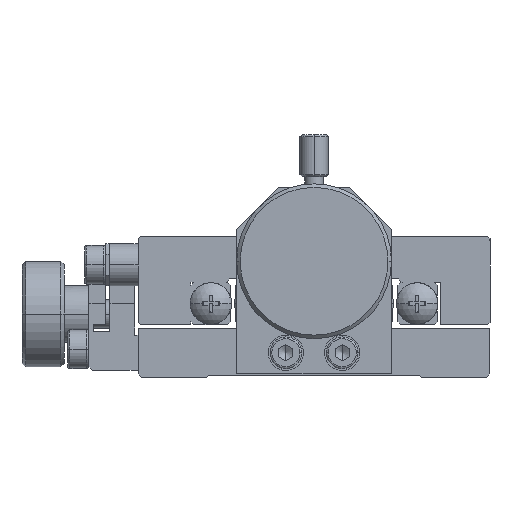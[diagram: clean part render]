
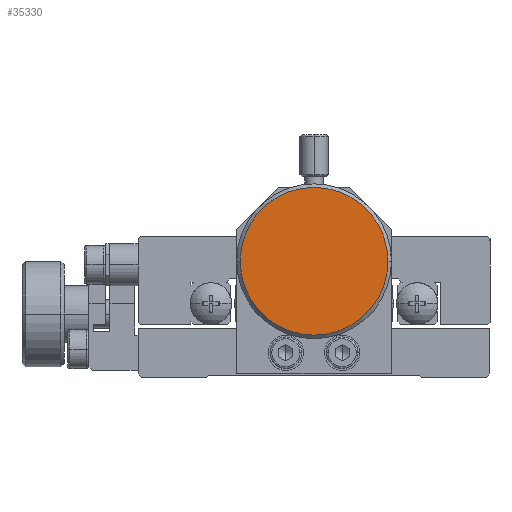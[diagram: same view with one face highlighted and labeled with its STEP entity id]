
A CAD part, front view. The second image highlights one B-rep face of the part: STEP entity #35330.
In plain terms, the highlighted planar face has unit normal (0, -1, 0).
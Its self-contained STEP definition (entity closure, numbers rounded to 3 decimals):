
#18049 = DIRECTION ( 'NONE',  ( -1., 0., 0. ) ) ;
#18050 = DIRECTION ( 'NONE',  ( 0., -1., 0. ) ) ;
#18051 = CARTESIAN_POINT ( 'NONE',  ( 0., -100.5, -3.5 ) ) ;
#18052 = AXIS2_PLACEMENT_3D ( 'NONE', #18051, #18050, #18049 ) ;
#18053 = CIRCLE ( 'NONE', #18052, 10.5 ) ;
#18054 = DIRECTION ( 'NONE',  ( -1., 0., 0. ) ) ;
#18055 = DIRECTION ( 'NONE',  ( 0., -1., 0. ) ) ;
#18056 = CARTESIAN_POINT ( 'NONE',  ( 0., -100.5, -3.5 ) ) ;
#18057 = AXIS2_PLACEMENT_3D ( 'NONE', #18056, #18055, #18054 ) ;
#18058 = PLANE ( 'NONE',  #18057 ) ;
#18059 = FACE_OUTER_BOUND ( 'NONE', #35331, .T. ) ;
#18068 = CARTESIAN_POINT ( 'NONE',  ( 10.5, -100.5, -3.5 ) ) ;
#18069 = CARTESIAN_POINT ( 'NONE',  ( -10.5, -100.5, -3.5 ) ) ;
#18080 = DIRECTION ( 'NONE',  ( -1., 0., 0. ) ) ;
#18081 = DIRECTION ( 'NONE',  ( 0., -1., 0. ) ) ;
#18082 = AXIS2_PLACEMENT_3D ( 'NONE', #18089, #18081, #18080 ) ;
#18083 = CIRCLE ( 'NONE', #18082, 10.5 ) ;
#18089 = CARTESIAN_POINT ( 'NONE',  ( 0., -100.5, -3.5 ) ) ;
#35323 = VERTEX_POINT ( 'NONE', #18069 ) ;
#35324 = VERTEX_POINT ( 'NONE', #18068 ) ;
#35330 = ADVANCED_FACE ( 'NONE', ( #18059 ), #18058, .T. ) ;
#35331 = EDGE_LOOP ( 'NONE', ( #35332, #35334 ) ) ;
#35332 = ORIENTED_EDGE ( 'NONE', *, *, #35333, .T. ) ;
#35333 = EDGE_CURVE ( 'NONE', #35324, #35323, #18053, .T. ) ;
#35334 = ORIENTED_EDGE ( 'NONE', *, *, #35350, .T. ) ;
#35350 = EDGE_CURVE ( 'NONE', #35323, #35324, #18083, .T. ) ;
